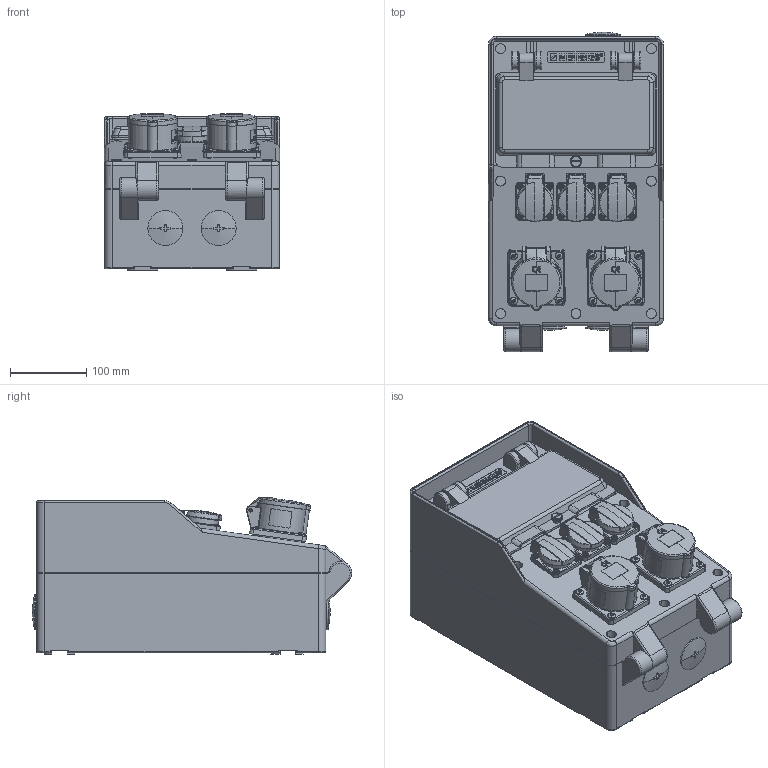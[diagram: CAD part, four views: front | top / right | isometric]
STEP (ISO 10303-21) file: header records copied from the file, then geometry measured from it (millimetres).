
FILE_DESCRIPTION((''),'2;1');
FILE_NAME('1116754_ASM_SW0002','2018-08-31T',('Gisse'),('MENNEKES'),'PRO/ENGINEER BY PARAMETRIC TECHNOLOGY CORPORATION, 2015440','PRO/ENGINEER BY PARAMETRIC TECHNOLOGY CORPORATION, 2015440','');
FILE_SCHEMA(('AUTOMOTIVE_DESIGN { 1 0 10303 214 1 1 1 1 }'));
Products named in the file (1): 1116754_ASM_SW0002
Bounding box: 230 x 419.67 x 206.13 mm (x, y, z)
Volume: 15178674.3 mm3; surface area: 706686.7 mm2
Topology: 1 solids, 2 shells, 4204 faces, 11380 edges, 7292 vertices
Faces by surface type: plane 2320, cylinder 822, cone 349, bspline 285, torus 277, sphere 88, extrusion 63
Entity records: 199974 total; most frequent: CARTESIAN_POINT 55676, ORIENTED_EDGE 22660, DIRECTION 18374, EDGE_CURVE 11330, VERTEX_POINT 7292, FILL_AREA_STYLE_COLOUR 7135, FILL_AREA_STYLE 7135, SURFACE_STYLE_FILL_AREA 7135
